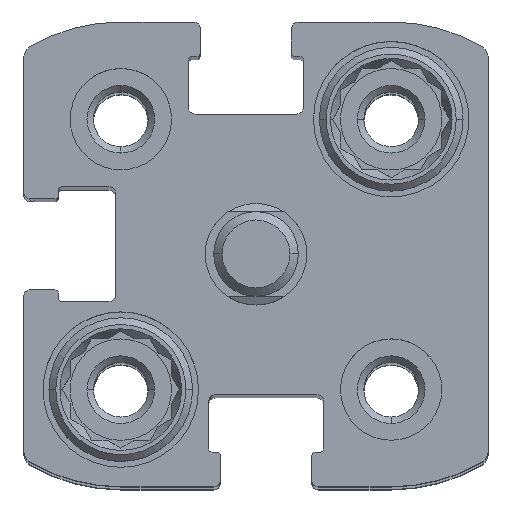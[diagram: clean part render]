
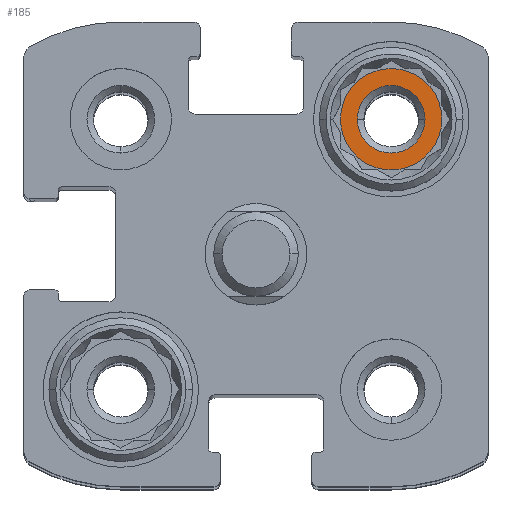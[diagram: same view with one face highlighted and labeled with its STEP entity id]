
A CAD part, top view. The second image highlights one B-rep face of the part: STEP entity #185.
In plain terms, the highlighted planar face has unit normal (0, 0, 1).
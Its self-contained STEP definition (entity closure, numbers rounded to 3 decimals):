
#81 = DIRECTION ( 'NONE',  ( -1., 0., 0. ) ) ;
#185 = ADVANCED_FACE ( 'NONE', ( #3411, #9726 ), #5350, .T. ) ;
#257 = VERTEX_POINT ( 'NONE', #6252 ) ;
#814 = DIRECTION ( 'NONE',  ( -1., 0., 0. ) ) ;
#1041 = DIRECTION ( 'NONE',  ( -1., 0., 0. ) ) ;
#1076 = EDGE_CURVE ( 'NONE', #257, #10232, #5465, .T. ) ;
#1269 = VERTEX_POINT ( 'NONE', #8655 ) ;
#1575 = DIRECTION ( 'NONE',  ( 1., 0., 0. ) ) ;
#1689 = DIRECTION ( 'NONE',  ( 0., 0., 1. ) ) ;
#1930 = DIRECTION ( 'NONE',  ( 0., 0., -1. ) ) ;
#1956 = ORIENTED_EDGE ( 'NONE', *, *, #1076, .T. ) ;
#1992 = CARTESIAN_POINT ( 'NONE',  ( 8., 8., -3.5 ) ) ;
#2576 = ORIENTED_EDGE ( 'NONE', *, *, #9951, .F. ) ;
#2608 = CIRCLE ( 'NONE', #10785, 3. ) ;
#2891 = DIRECTION ( 'NONE',  ( -1., 0., 0. ) ) ;
#3134 = AXIS2_PLACEMENT_3D ( 'NONE', #5183, #1689, #1575 ) ;
#3411 = FACE_OUTER_BOUND ( 'NONE', #11611, .T. ) ;
#3721 = CIRCLE ( 'NONE', #11148, 3. ) ;
#3831 = DIRECTION ( 'NONE',  ( 0., 0., -1. ) ) ;
#4006 = ORIENTED_EDGE ( 'NONE', *, *, #7722, .F. ) ;
#4434 = CARTESIAN_POINT ( 'NONE',  ( 8., 8., -3.5 ) ) ;
#4601 = DIRECTION ( 'NONE',  ( 0., 0., -1. ) ) ;
#5183 = CARTESIAN_POINT ( 'NONE',  ( 8., 11., -3.5 ) ) ;
#5350 = PLANE ( 'NONE',  #3134 ) ;
#5465 = CIRCLE ( 'NONE', #8718, 2. ) ;
#6058 = AXIS2_PLACEMENT_3D ( 'NONE', #11103, #1930, #1041 ) ;
#6252 = CARTESIAN_POINT ( 'NONE',  ( 6., 8., -3.5 ) ) ;
#6562 = EDGE_CURVE ( 'NONE', #10232, #257, #7388, .T. ) ;
#6897 = EDGE_LOOP ( 'NONE', ( #9489, #1956 ) ) ;
#7171 = CARTESIAN_POINT ( 'NONE',  ( 5., 8., -3.5 ) ) ;
#7388 = CIRCLE ( 'NONE', #6058, 2. ) ;
#7722 = EDGE_CURVE ( 'NONE', #8757, #1269, #2608, .T. ) ;
#8655 = CARTESIAN_POINT ( 'NONE',  ( 11., 8., -3.5 ) ) ;
#8718 = AXIS2_PLACEMENT_3D ( 'NONE', #11765, #4601, #81 ) ;
#8757 = VERTEX_POINT ( 'NONE', #7171 ) ;
#9489 = ORIENTED_EDGE ( 'NONE', *, *, #6562, .T. ) ;
#9560 = CARTESIAN_POINT ( 'NONE',  ( 10., 8., -3.5 ) ) ;
#9726 = FACE_BOUND ( 'NONE', #6897, .T. ) ;
#9951 = EDGE_CURVE ( 'NONE', #1269, #8757, #3721, .T. ) ;
#10232 = VERTEX_POINT ( 'NONE', #9560 ) ;
#10785 = AXIS2_PLACEMENT_3D ( 'NONE', #1992, #3831, #2891 ) ;
#11103 = CARTESIAN_POINT ( 'NONE',  ( 8., 8., -3.5 ) ) ;
#11148 = AXIS2_PLACEMENT_3D ( 'NONE', #4434, #11773, #814 ) ;
#11611 = EDGE_LOOP ( 'NONE', ( #4006, #2576 ) ) ;
#11765 = CARTESIAN_POINT ( 'NONE',  ( 8., 8., -3.5 ) ) ;
#11773 = DIRECTION ( 'NONE',  ( 0., 0., -1. ) ) ;
